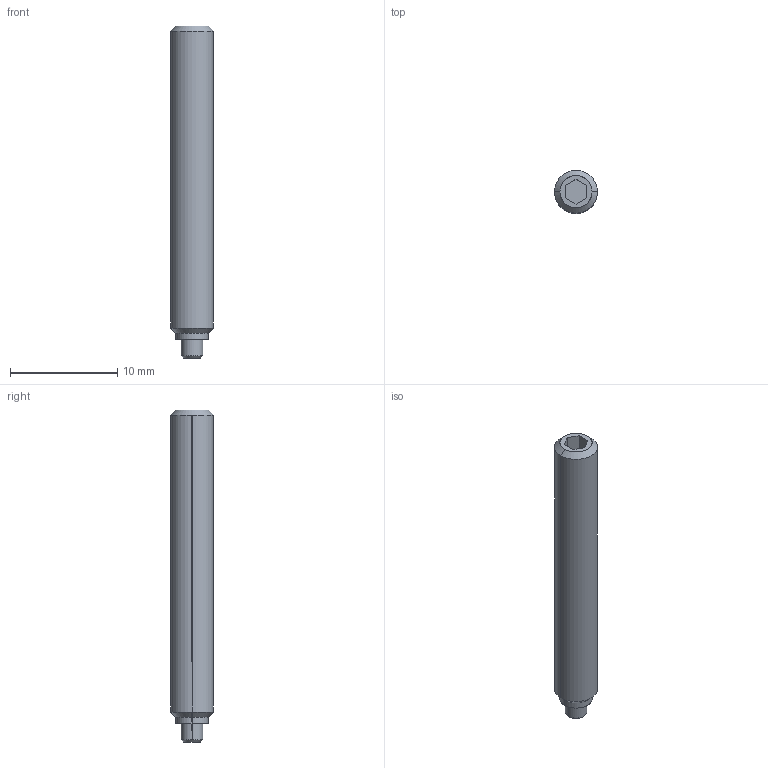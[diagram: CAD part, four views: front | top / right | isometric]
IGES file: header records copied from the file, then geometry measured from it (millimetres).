
Start section: SolidWorks IGES file using analytic representation for surfaces
Global section: file name: X:\11_SW2020-Inv2020\00_全2021-11新製品まで\h\HSSP04X31-SUS\hssp04x31-sus.IGS; native system: SolidWorks 2020; preprocessor: SolidWorks 2020; author: ImaoCorp; date: 211026.102236; units: millimetre
Bounding box: 4 x 4 x 31 mm (x, y, z)
Surface area: 410.6 mm2 (no closed solid volume)
Topology: 0 solids, 0 shells, 22 faces, 196 edges, 196 vertices
Faces by surface type: revolution 12, bspline 10
